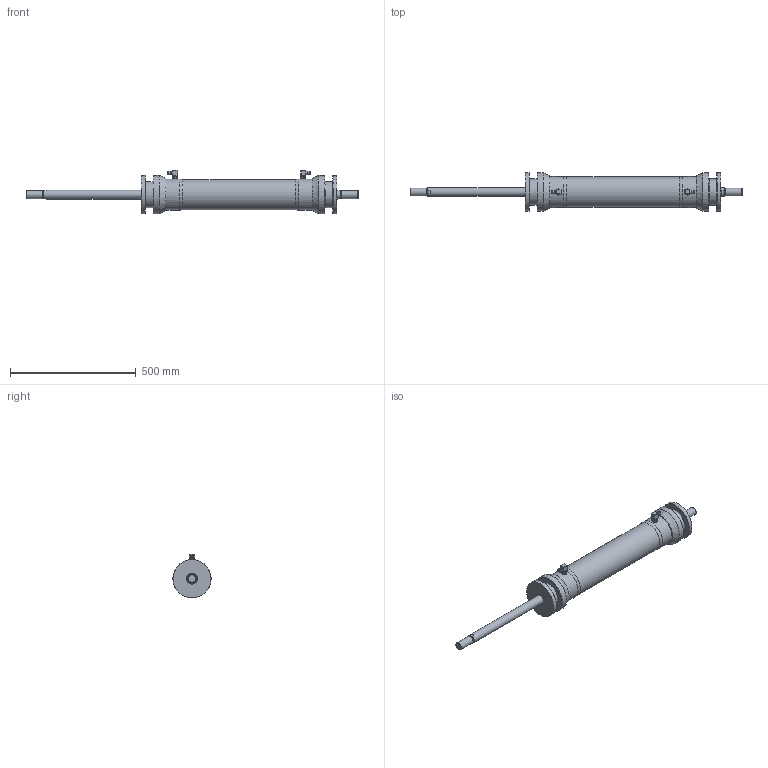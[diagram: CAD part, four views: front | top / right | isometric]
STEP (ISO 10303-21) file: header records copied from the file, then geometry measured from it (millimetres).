
FILE_DESCRIPTION(/* description */ (''),/* implementation_level */ '2;1');
FILE_NAME(/* name */ 'C:\STP.CR\TDA-71_Simplify_1 Rev1.stp',/* time_stamp */ '2021-11-03T12:37:22+00:00',/* author */ ('AL'),/* organization */ (''),/* preprocessor_version */ 'ST-DEVELOPER v18.1',/* originating_system */ 'Autodesk Inventor 2022',/* authorisation */ '');
FILE_SCHEMA (('AUTOMOTIVE_DESIGN { 1 0 10303 214 3 1 1 }'));
Length unit declared in the file: millimetre
Products named in the file (1): TDA-71_Simplify_1
Bounding box: 1322.5 x 152.6 x 173.65 mm (x, y, z)
Volume: 10048765.5 mm3; surface area: 477641.7 mm2
Topology: 1 solids, 1 shells, 201 faces, 401 edges, 238 vertices
Faces by surface type: plane 88, cylinder 51, cone 38, torus 24
Full cylindrical faces by diameter (mm): 13.25 x4, 14.25 x2, 14.35 x2, 14.662 x2, 15.662 x2, 16.662 x4, 21.4 x4, 29.299 x2, 31.699 x2, 35 x2, 37 x2, 39 x2, 43 x2, 43.6 x2, 104 x2, 120.6 x1, 123.6 x2, 152.6 x4
Entity records: 5764 total; most frequent: CARTESIAN_POINT 1297, DIRECTION 935, ORIENTED_EDGE 802, EDGE_CURVE 401, AXIS2_PLACEMENT_3D 382, VERTEX_POINT 238, EDGE_LOOP 237, STYLED_ITEM 202
